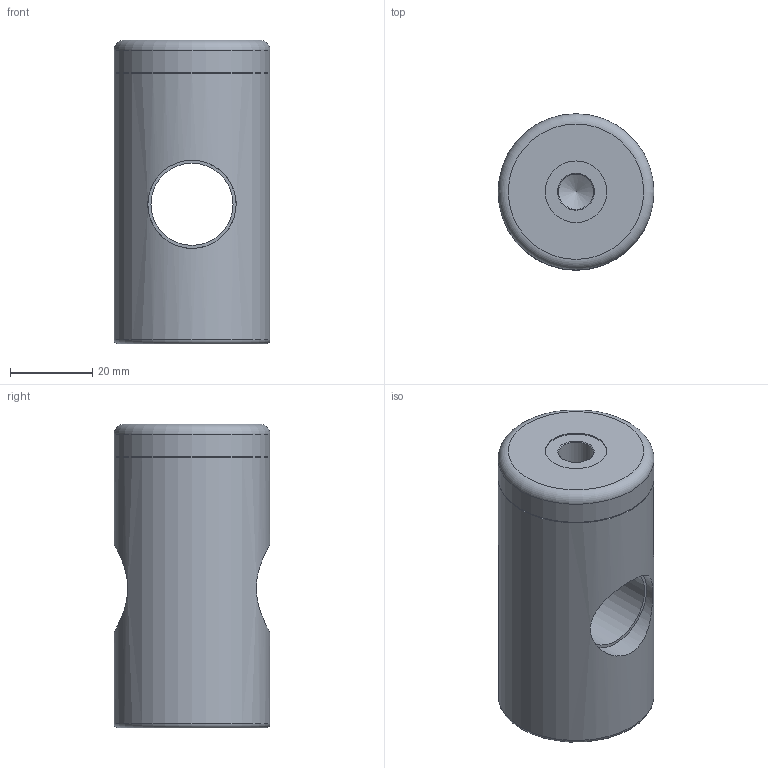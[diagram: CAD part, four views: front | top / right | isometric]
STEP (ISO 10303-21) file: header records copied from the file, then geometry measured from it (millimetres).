
FILE_DESCRIPTION(('STEP AP242'),'1');
FILE_NAME('V.5020_S Feststellpatrone.stp','2026-04-23T09:33:28',(' '),(' '),'Spatial InterOp 3D',' ',' ');
FILE_SCHEMA(('AP242_MANAGED_MODEL_BASED_3D_ENGINEERING_MIM_LF {1 0 10303 442 1 1 4}'));
Length unit declared in the file: millimetre
Products named in the file (1): V.5020_S Feststellpatrone
Bounding box: 38 x 38 x 74 mm (x, y, z)
Volume: 71102 mm3; surface area: 12809.6 mm2
Topology: 1 solids, 1 shells, 19 faces, 36 edges, 22 vertices
Faces by surface type: cylinder 8, plane 5, cone 4, torus 2
Full cylindrical faces by diameter (mm): 8.566 x2, 15 x1, 20 x1, 21.5 x2, 38 x2
Entity records: 819 total; most frequent: CARTESIAN_POINT 249, DIRECTION 74, EDGE_LOOP 38, ORIENTED_EDGE 38, AXIS2_PLACEMENT_3D 37, FACE_OUTER_BOUND 29, STYLED_ITEM 20, PRESENTATION_STYLE_ASSIGNMENT 20
